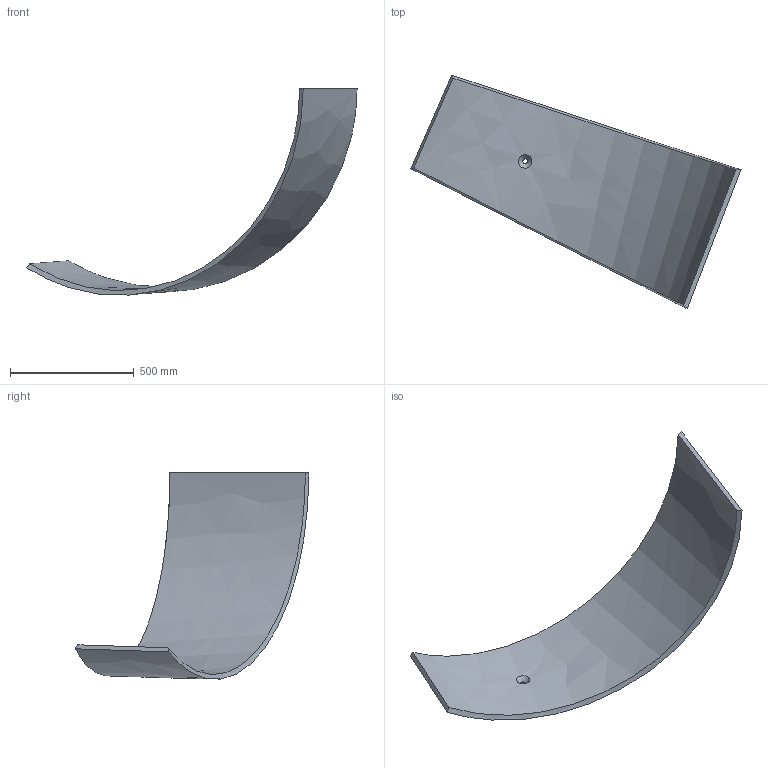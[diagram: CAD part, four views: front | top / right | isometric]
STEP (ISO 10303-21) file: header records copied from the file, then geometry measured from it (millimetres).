
FILE_DESCRIPTION (( 'STEP AP214' ), '1' );
FILE_NAME ('P6.2.STEP', '2025-01-09T19:43:24', ( '' ), ( '' ), 'SwSTEP 2.0', 'SolidWorks 2024', '' );
FILE_SCHEMA (( 'AUTOMOTIVE_DESIGN' ));
Length unit declared in the file: inch
Products named in the file (1): P6.2
Bounding box: 1333.94 x 944.46 x 832.77 mm (x, y, z)
Volume: 18136946.5 mm3; surface area: 1858827 mm2
Topology: 1 solids, 1 shells, 8 faces, 18 edges, 12 vertices
Faces by surface type: bspline 7, cylinder 1
Full cylindrical faces by diameter (mm): 19.431 x1
Entity records: 2619 total; most frequent: CARTESIAN_POINT 2471, ORIENTED_EDGE 30, EDGE_CURVE 15, B_SPLINE_CURVE_WITH_KNOTS 15, EDGE_LOOP 12, VERTEX_POINT 11, FACE_OUTER_BOUND 10, ADVANCED_FACE 8
